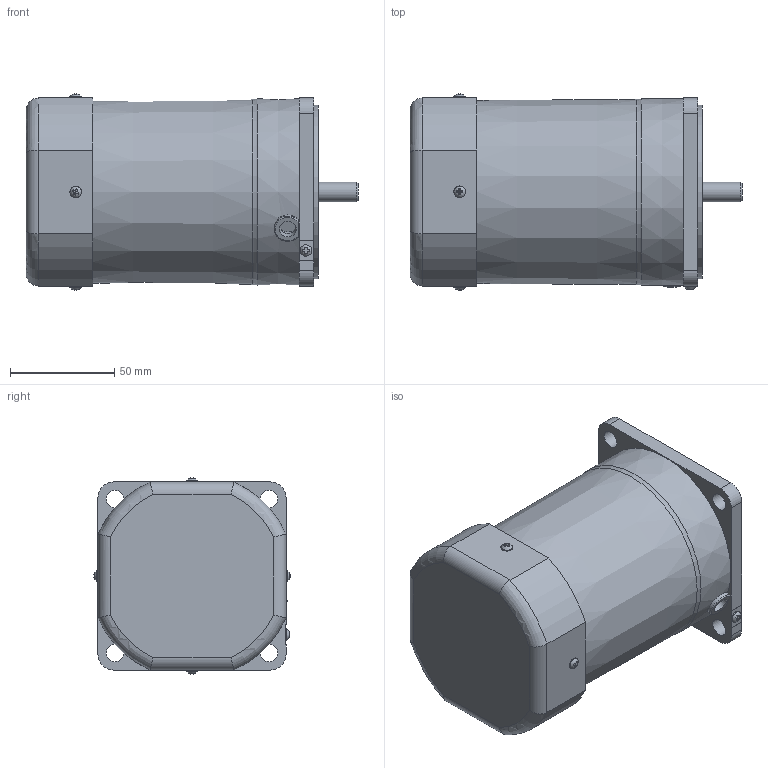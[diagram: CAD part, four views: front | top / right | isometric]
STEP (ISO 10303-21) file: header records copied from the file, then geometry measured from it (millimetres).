
FILE_DESCRIPTION(/* description */ (''),/* implementation_level */ '2;1');
FILE_NAME(/* name */ 'E:\도면작업\2016\0704) 미주향 SG 도면\3D MOTOR\SG9I90G_.stp',/* time_stamp */ '2016-07-22T13:52:43+09:00',/* author */ ('jy-jung'),/* organization */ (''),/* preprocessor_version */ 'ST-DEVELOPER v15.6',/* originating_system */ 'Autodesk Inventor 2015',/* authorisation */ '');
FILE_SCHEMA (('AUTOMOTIVE_DESIGN { 1 0 10303 214 3 1 1 }'));
Length unit declared in the file: millimetre
Products named in the file (1): 부품2
Bounding box: 158.9 x 93.89 x 93.89 mm (x, y, z)
Volume: 882307.6 mm3; surface area: 61288.3 mm2
Topology: 1 solids, 6 shells, 192 faces, 491 edges, 324 vertices
Faces by surface type: plane 120, cylinder 46, torus 14, cone 7, bspline 5
Full cylindrical faces by diameter (mm): 3 x4, 3.5 x4, 5.6 x5, 8 x1, 8.5 x4, 9.33 x1, 10 x1, 40 x1, 83 x1
Entity records: 6254 total; most frequent: CARTESIAN_POINT 1605, ORIENTED_EDGE 886, DIRECTION 858, EDGE_CURVE 443, VERTEX_POINT 315, AXIS2_PLACEMENT_3D 310, EDGE_LOOP 262, LINE 238
